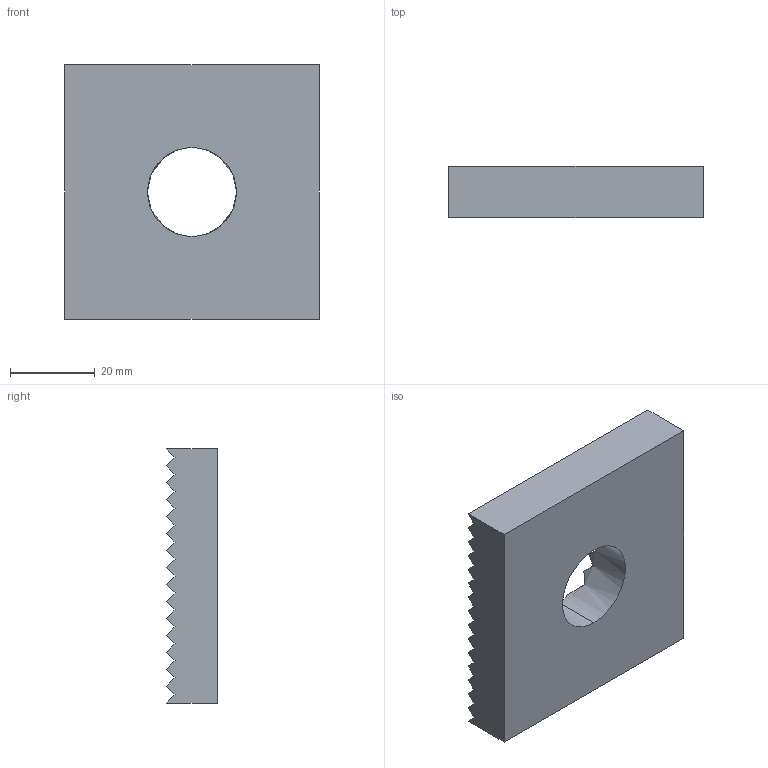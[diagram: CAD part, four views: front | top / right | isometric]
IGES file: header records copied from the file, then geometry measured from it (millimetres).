
Start section: 3D InterOp IGES (v. 2019 1.0.2), Spatial Corp. Copyright (c) 1999-2017.
Global section: file name: CPA6012T21.igs; native system: Spatial Corp.; preprocessor: 3D InterOp GENERIC/IGES 3.0; author: Noname; organization: Noname; date: 20210211.124854; units: millimetre
Bounding box: 60 x 12 x 60 mm (x, y, z)
Surface area: 11351 mm2 (no closed solid volume)
Topology: 0 solids, 0 shells, 47 faces, 276 edges, 276 vertices
Faces by surface type: extrusion 45, revolution 2
